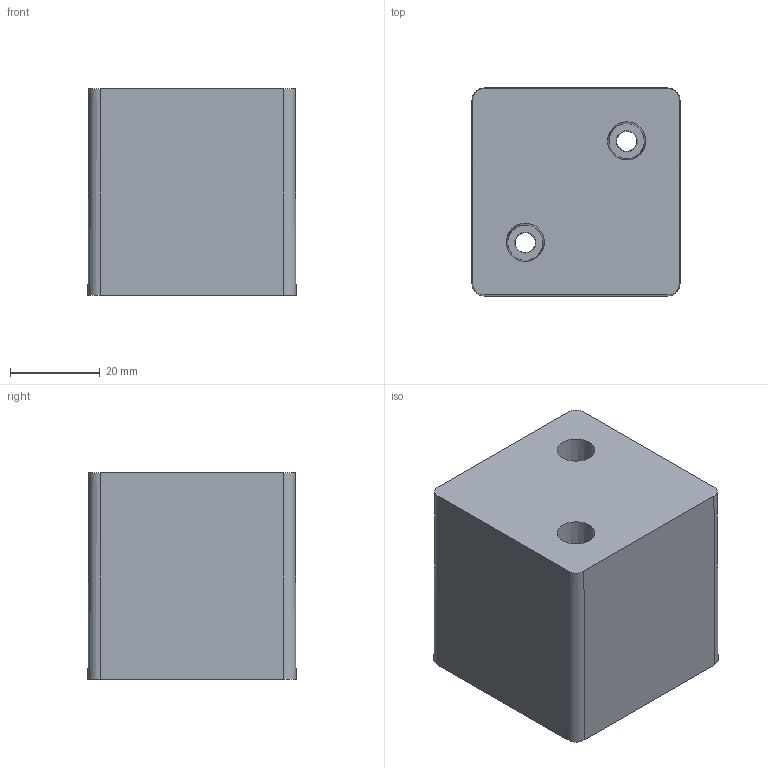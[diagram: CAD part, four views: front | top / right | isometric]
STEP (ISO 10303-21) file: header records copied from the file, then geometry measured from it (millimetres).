
FILE_DESCRIPTION(('Unknown'),'2;1');
FILE_NAME('','Unknown',('Unknown'),('Unknown'),'','Unknown','');
FILE_SCHEMA(('CONFIG_CONTROL_DESIGN'));
Length unit declared in the file: millimetre
Bounding box: 46.4 x 46.4 x 46 mm (x, y, z)
Volume: 36401.3 mm3; surface area: 25050.4 mm2
Topology: 1 solids, 1 shells, 33 faces, 85 edges, 57 vertices
Faces by surface type: plane 17, cone 16
Entity records: 1072 total; most frequent: DIRECTION 176, CARTESIAN_POINT 166, ORIENTED_EDGE 160, EDGE_CURVE 80, AXIS2_PLACEMENT_3D 66, VERTEX_POINT 56, EDGE_LOOP 44, LINE 44
